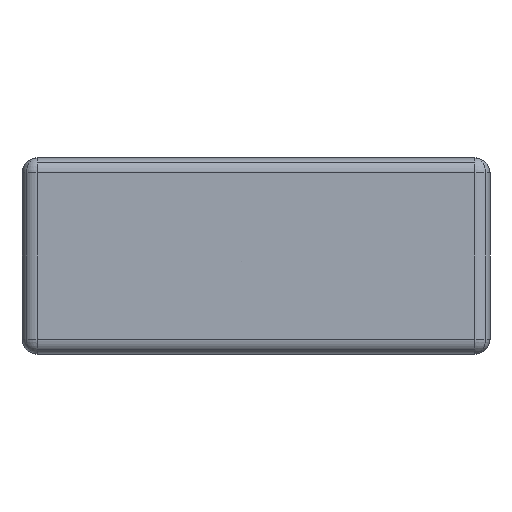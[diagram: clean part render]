
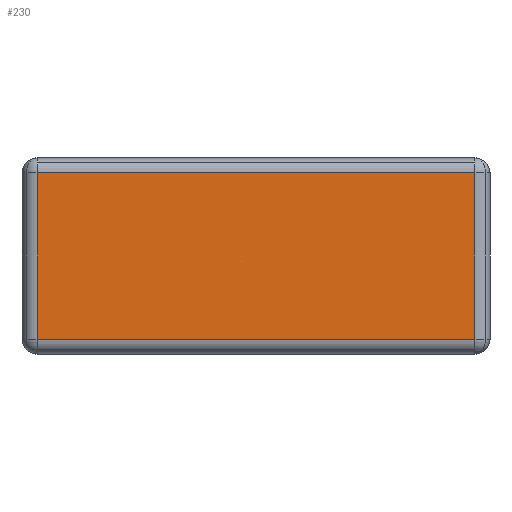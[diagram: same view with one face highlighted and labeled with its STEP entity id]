
A CAD part, front view. The second image highlights one B-rep face of the part: STEP entity #230.
In plain terms, the highlighted planar face has unit normal (0, -1, 0).
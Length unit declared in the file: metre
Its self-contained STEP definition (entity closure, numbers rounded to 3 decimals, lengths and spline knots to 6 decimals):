
#230=ADVANCED_FACE('0:402',(#685),#686,.T.);
#685=FACE_OUTER_BOUND('',#1356,.T.);
#686=PLANE('',#1357);
#1356=EDGE_LOOP('',(#3131,#3132,#3133,#3134));
#1357=AXIS2_PLACEMENT_3D('',#3135,#3136,#3137);
#3131=ORIENTED_EDGE('',*,*,#4805,.F.);
#3132=ORIENTED_EDGE('',*,*,#4809,.F.);
#3133=ORIENTED_EDGE('',*,*,#4810,.F.);
#3134=ORIENTED_EDGE('',*,*,#4508,.F.);
#3135=CARTESIAN_POINT('',(0.00775,0.0,0.0));
#3136=DIRECTION('',(0.0,-1.0,0.0));
#3137=DIRECTION('',(1.0,0.0,0.0));
#4508=EDGE_CURVE('4:33',#5443,#5445,#5446,.T.);
#4805=EDGE_CURVE('4:530',#5457,#5443,#5936,.T.);
#4809=EDGE_CURVE('4:24',#5088,#5457,#5940,.T.);
#4810=EDGE_CURVE('4:497',#5445,#5088,#5941,.T.);
#5088=VERTEX_POINT('',#6299);
#5443=VERTEX_POINT('',#6745);
#5445=VERTEX_POINT('',#6747);
#5446=LINE('',#6748,#6749);
#5457=VERTEX_POINT('',#6760);
#5936=LINE('',#7661,#7662);
#5940=LINE('',#7668,#7669);
#5941=LINE('',#7670,#7671);
#6299=CARTESIAN_POINT('',(0.015,0.0,0.0025));
#6745=CARTESIAN_POINT('',(0.0005,0.0,-0.003));
#6747=CARTESIAN_POINT('',(0.0005,0.0,0.0025));
#6748=CARTESIAN_POINT('',(0.0005,0.0,0.0));
#6749=VECTOR('',#8474,1.0);
#6760=CARTESIAN_POINT('',(0.015,0.0,-0.003));
#7661=CARTESIAN_POINT('',(0.003875,0.0,-0.003));
#7662=VECTOR('',#8663,1.0);
#7668=CARTESIAN_POINT('',(0.015,0.0,0.0));
#7669=VECTOR('',#8669,1.0);
#7670=CARTESIAN_POINT('',(0.003875,0.0,0.0025));
#7671=VECTOR('',#8670,1.0);
#8474=DIRECTION('',(0.0,0.0,1.0));
#8663=DIRECTION('',(-1.0,-0.0,0.0));
#8669=DIRECTION('',(0.0,-0.0,-1.0));
#8670=DIRECTION('',(1.0,-0.0,-0.0));
